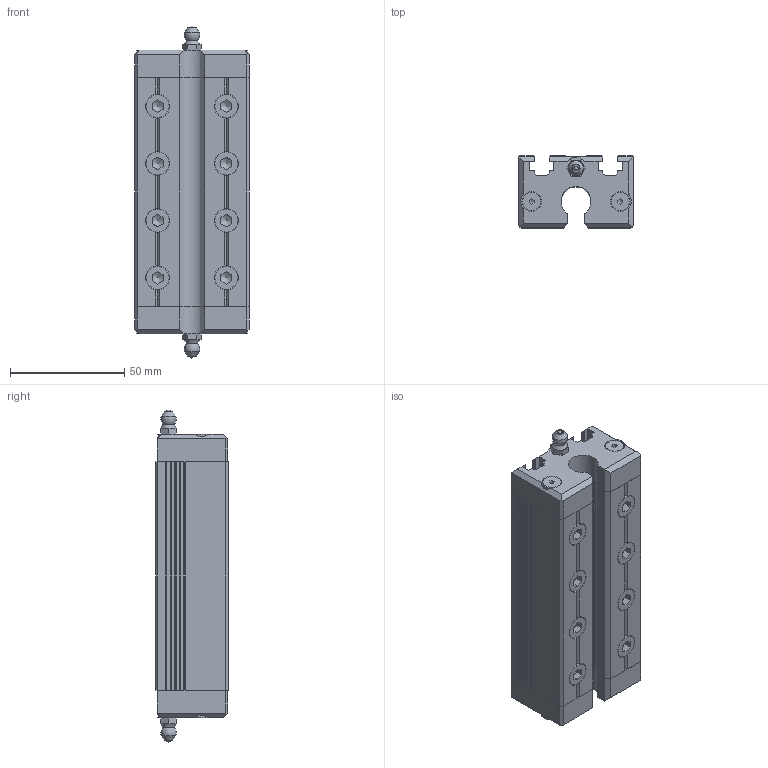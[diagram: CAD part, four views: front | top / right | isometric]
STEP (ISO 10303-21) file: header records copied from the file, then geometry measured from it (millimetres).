
FILE_DESCRIPTION (( 'STEP AP203' ), '1' );
FILE_NAME ('Wellenschlitten WS 6-100 - ArtNr 223106 XXXX.STEP', '2014-12-15T10:41:04', ( '' ), ( '' ), 'SwSTEP 2.0', 'SolidWorks 2014', '' );
FILE_SCHEMA (( 'CONFIG_CONTROL_DESIGN' ));
Length unit declared in the file: millimetre
Products named in the file (1): Wellenschlitten WS 6-100 - ArtNr 223106 XXXX
Bounding box: 50 x 31.5 x 145.09 mm (x, y, z)
Volume: 143714.9 mm3; surface area: 44131.8 mm2
Topology: 1 solids, 1 shells, 514 faces, 1354 edges, 862 vertices
Faces by surface type: plane 405, cylinder 89, cone 14, torus 4, sphere 2
Full cylindrical faces by diameter (mm): 8 x4, 8.5 x4, 10 x8, 10.5 x8
Entity records: 15723 total; most frequent: CARTESIAN_POINT 3279, ORIENTED_EDGE 2596, DIRECTION 2478, EDGE_CURVE 1298, VECTOR 928, LINE 928, VERTEX_POINT 848, AXIS2_PLACEMENT_3D 775
